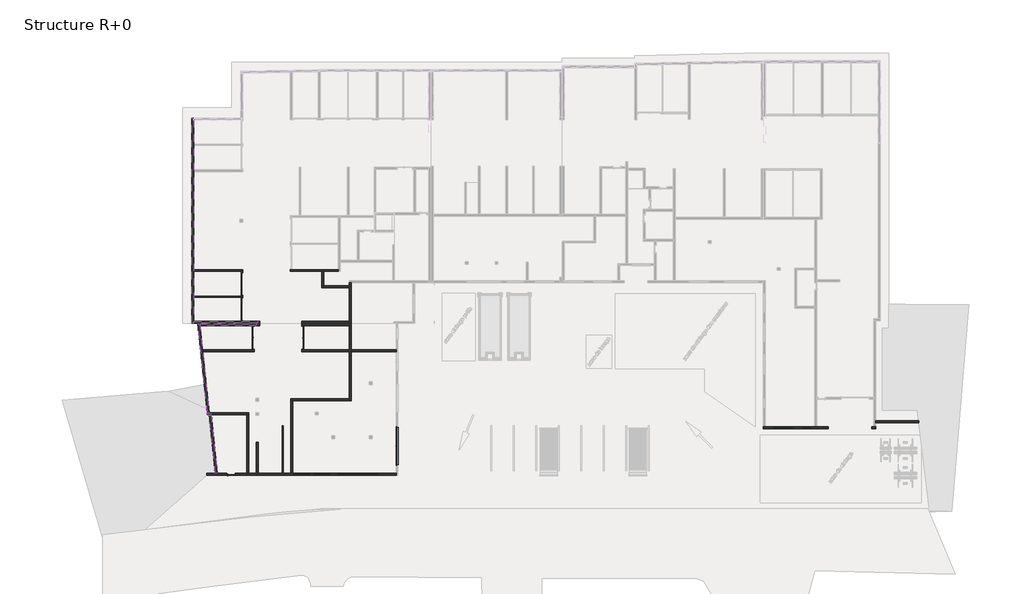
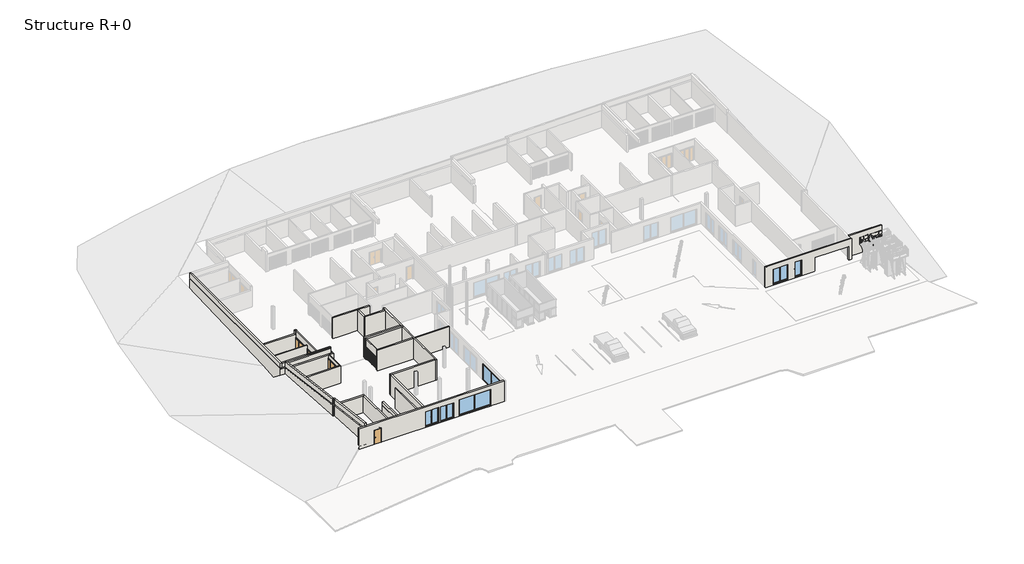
# One storey, part 1 of 8: 34 walls, 6 windows, 5 doors.
"""IFC4 building model written with IfcOpenShell, lengths in millimetres."""

from ifc_helpers import new_model, si_unit, frame, origin, origin_with_axes, place, context, project, spatial, polyline, outline, extrude, faceted_brep, transform, mapped, element, save
from components import door_2_4m_x_2m_ca442cef, hb_simple_930_x_2040_mm_eef520c9, window_0_90m_x_2_25m_cf4a88c4, window_1_80m_x_2_25m_241c93e5, window_2m_x_2_25m_73eb5746, window_4_05m_x_2_35m_2_aa9c86cb, window_4_40m_x_2_35m_32ff79ff

model = new_model("IFC4")

# Units and contexts
model_context = context("Model", 3, world=origin())
ifc_project = project(units=[si_unit("LENGTHUNIT", "METRE", prefix="MILLI")], contexts=[model_context])

# Site, building, storey
site = spatial("IfcSite", under=ifc_project)
building = spatial("IfcBuilding", under=site)
storey = spatial("IfcBuildingStorey", under=building, Name="Structure R+0", Elevation=0.0)

# Doors
placement = place(None, origin())
door_2_4m_x_2m_shape = door_2_4m_x_2m_ca442cef(model_context)
element("IfcDoor", 1, ObjectType="Garage basculante : 2.4m x 2m", at=placement, inside=storey, context=model_context, shape_type="MappedRepresentation", body=[
    mapped(door_2_4m_x_2m_shape, transform((4050.4601588, 14310.0010954, 0.0), x_axis=(0.0, -1.0, 0.0), y_axis=(1.0, 0.0, 0.0), z_axis=(0.0, 0.0, 1.0))),
])
element("IfcDoor", 2, ObjectType="Garage basculante : 2.4m x 2m", at=placement, inside=storey, context=model_context, shape_type="MappedRepresentation", body=[
    mapped(door_2_4m_x_2m_shape, transform((4050.4601588, 11597.9170713, 0.0), x_axis=(0.0, -1.0, 0.0), y_axis=(1.0, 0.0, 0.0), z_axis=(0.0, 0.0, 1.0))),
])
element("IfcDoor", 3, ObjectType="Garage basculante : 2.4m x 2m", at=placement, inside=storey, context=model_context, shape_type="MappedRepresentation", body=[
    mapped(door_2_4m_x_2m_shape, transform((5252.8107901, 8563.0029899, 0.0), x_axis=(0.0, -1.0, 0.0), y_axis=(1.0, 0.0, 0.0), z_axis=(0.0, 0.0, 1.0))),
])
element("IfcDoor", 4, ObjectType="Garage basculante : 2.4m x 2m", at=placement, inside=storey, context=model_context, shape_type="MappedRepresentation", body=[
    mapped(door_2_4m_x_2m_shape, transform((9766.2156554, 8582.0080739, 0.0), x_axis=(0.0, 1.0, 0.0), y_axis=(-1.0, 0.0, 0.0), z_axis=(0.0, 0.0, 1.0))),
])
hb_simple_930_x_2040_mm_shape = hb_simple_930_x_2040_mm_eef520c9(model_context)
element("IfcDoor", 5, ObjectType="HB-Simple : 930 x 2040 mm", at=placement, inside=storey, context=model_context, shape_type="MappedRepresentation", body=[
    mapped(hb_simple_930_x_2040_mm_shape, transform((2482.6863548, -6005.1620119, 0.0), x_axis=(1.0, 0.0, 0.0), y_axis=(0.0, 1.0, 0.0), z_axis=(0.0, 0.0, 1.0))),
])

# Walls
element("IfcWall", 6, ObjectType="Voile BA 20 + etancheite 1 + 2 enduit", at=placement, inside=storey, context=model_context, shape_type="Brep", body=[
    faceted_brep([(174.1388085, 528.6115605, 2710.0), (-806.1527327, 9855.4625547, 2710.0), (-828.2246221, 10065.4625547, 2710.0), (-828.2246221, 10065.4625547, 3330.0), (-828.2246221, 10065.4625547, 3410.0), (174.1388085, 528.6115605, 3410.0), (-37.0179302, 528.6115605, 2710.0), (-37.0179302, 528.6115605, 3410.0), (-1039.3813608, 10065.4625547, 3410.0), (-1039.3813608, 10065.4625547, 2710.0)], [[[0, 1, 2, 3, 4, 5]], [[6, 7, 8, 9]], [[2, 1, 0, 6, 9]], [[5, 4, 8, 7]], [[0, 5, 7, 6]], [[4, 3, 2, 9, 8]]]),
])
element("IfcWall", 7, ObjectType="Voile BA 20 + etancheite 1 + 2 enduit", at=placement, inside=storey, context=model_context, shape_type="Brep", body=[
    faceted_brep([(-14.9460408, 318.6115605, 2710.0), (164.2799074, 318.6115605, 2710.0), (375.4398241, 318.6115605, 2710.0), (375.4398241, 318.6115605, 3410.0), (164.2799074, 318.6115605, 3410.0), (-14.9460408, 318.6115605, 3410.0), (-37.0179302, 528.6115605, 2710.0), (-37.0179302, 528.6115605, 3410.0), (174.1388085, 528.6115605, 3410.0), (353.337552, 528.6115605, 3410.0), (353.337552, 528.6115605, 2710.0), (174.1388085, 528.6115605, 2710.0)], [[[0, 1, 2, 3, 4, 5]], [[6, 7, 8, 9, 10, 11]], [[2, 1, 0, 6, 11, 10]], [[5, 4, 3, 9, 8, 7]], [[0, 5, 7, 6]], [[3, 2, 10, 9]]]),
])
element("IfcWall", 8, ObjectType="Voile BA 20 + etancheite 1 + 2 enduit", at=placement, inside=storey, context=model_context, shape_type="Brep", body=[
    faceted_brep([(-1473.0020232, 10125.465256, 2710.0), (-1473.0020232, 10335.465256, 2710.0), (-1473.0020232, 31818.092309, 2710.0), (-1473.0020232, 32028.092309, 2710.0), (-1473.0020232, 32028.092309, 3410.0), (-1473.0020232, 31818.092309, 3410.0), (-1473.0020232, 10125.465256, 3410.0), (-1473.0020232, 10125.465256, 3330.0), (-1683.0020232, 10125.465256, 2710.0), (-1683.0020232, 10125.465256, 3410.0), (-1683.0020232, 32028.092309, 3410.0), (-1683.0020232, 32028.092309, 2710.0)], [[[0, 1, 2, 3, 4, 5, 6, 7]], [[8, 9, 10, 11]], [[3, 2, 1, 0, 8, 11]], [[6, 5, 4, 10, 9]], [[4, 3, 11, 10]], [[0, 7, 6, 9, 8]]]),
])
element("IfcWall", 9, ObjectType="Voile BA 20 + etancheite 1 + 0 enduit", at=placement, inside=storey, context=model_context, shape_type="Brep", body=[
    faceted_brep([(-806.1527327, 9855.4625547, 2710.0), (5184.2512184, 9855.4625547, 2710.0), (5184.2512184, 9855.4625547, 2720.0), (5184.2512184, 9855.4625547, 3030.0), (5184.2512184, 9855.4625547, 3320.0), (5184.2512184, 9855.4625547, 3330.0), (-806.1527327, 9855.4625547, 3330.0), (-828.2246221, 10065.4625547, 2710.0), (-828.2246221, 10065.4625547, 3330.0), (5184.2512184, 10065.4625547, 3330.0), (5184.2512184, 10065.4625547, 2710.0)], [[[0, 1, 2, 3, 4, 5, 6]], [[7, 8, 9, 10]], [[1, 0, 7, 10]], [[6, 5, 9, 8]], [[5, 4, 3, 2, 1, 10, 9]], [[0, 6, 8, 7]]]),
])
element("IfcWall", 10, ObjectType="Voile BA 20 + etancheite 1 + 0 enduit", at=placement, inside=storey, context=model_context, shape_type="Brep", body=[
    faceted_brep([(5329.893812, 10335.465256, 2710.0), (-1473.0020232, 10335.465256, 2710.0), (-1473.0020232, 10335.465256, 3330.0), (5329.893812, 10335.465256, 3330.0), (5329.893812, 10335.465256, 3320.0), (5329.893812, 10335.465256, 2720.0), (5329.893812, 10125.465256, 2710.0), (5329.893812, 10125.465256, 3330.0), (-1473.0020232, 10125.465256, 3330.0), (-1473.0020232, 10125.465256, 2710.0)], [[[0, 1, 2, 3, 4, 5]], [[6, 7, 8, 9]], [[1, 0, 6, 9]], [[3, 2, 8, 7]], [[0, 5, 4, 3, 7, 6]], [[2, 1, 9, 8]]]),
])
element("IfcWall", 11, ObjectType="Voile BA 20 + etancheite 1 + 2 enduit", at=placement, inside=storey, context=model_context, shape_type="SweptSolid", body=[
    extrude(outline(polyline([(375.4398241, 318.6115605), (1030.4852393, -5905.1620119), (819.3253225, -5905.1620119), (164.2799074, 318.6115605), (375.4398241, 318.6115605)])), frame((0.0, 0.0, 2710.0), z_axis=(0.0, 0.0, 1.0), x_axis=(1.0, 0.0, 0.0)), (0.0, 0.0, 1.0), 700.0),
])
element("IfcWall", 12, ObjectType="Ext. Voile BA 20", at=placement, inside=storey, context=model_context, shape_type="Brep", body=[
    faceted_brep([(-84.079262, -5905.1620119, 0.0), (-84.079262, -5905.1620119, 3030.0), (5184.2512184, -5905.1620119, 3030.0), (5382.6096912, -5905.1620119, 3030.0), (7979.1229661, -5905.1620119, 3030.0), (8079.1229661, -5905.1620119, 3030.0), (8879.0548308, -5905.1620119, 3030.0), (9079.0548308, -5905.1620119, 3030.0), (20115.920738, -5905.1620119, 3030.0), (20115.920738, -5905.1620119, 0.0), (9079.0548308, -5905.1620119, 0.0), (8879.0548308, -5905.1620119, 0.0), (8079.1229661, -5905.1620119, 0.0), (7979.1229661, -5905.1620119, 0.0), (5382.6096912, -5905.1620119, 0.0), (5182.6096912, -5905.1620119, 0.0), (4382.6863548, -5905.1620119, 0.0), (4182.6863548, -5905.1620119, 0.0), (2929.6863548, -5905.1620119, 0.0), (2929.6863548, -5905.1620119, 2022.0), (2035.6863548, -5905.1620119, 2022.0), (2035.6863548, -5905.1620119, 0.0), (1020.3287499, -5905.1620119, 0.0), (819.227094, -5905.1620119, 0.0), (9109.0548308, -5905.1620119, 35.0), (11009.0548308, -5905.1620119, 35.0), (11009.0548308, -5905.1620119, 2335.0), (9109.0548308, -5905.1620119, 2335.0), (11209.0548308, -5905.1620119, 35.0), (13109.0548308, -5905.1620119, 35.0), (13109.0548308, -5905.1620119, 2335.0), (11209.0548308, -5905.1620119, 2335.0), (13809.0548308, -5905.1620119, 35.0), (18309.0548308, -5905.1620119, 35.0), (18309.0548308, -5905.1620119, 2435.0), (13809.0548308, -5905.1620119, 2435.0), (-84.079262, -6105.1620119, 3030.0), (-84.079262, -6105.1620119, 0.0), (2016.1863548, -6105.1620119, 0.0), (2016.1863548, -6105.1620119, 2041.5), (2949.1863548, -6105.1620119, 2041.5), (2949.1863548, -6105.1620119, 0.0), (20115.920738, -6105.1620119, 0.0), (20115.920738, -6105.1620119, 3030.0), (10959.0548308, -6105.1620119, 2285.0), (10959.0548308, -6105.1620119, 22.3874918), (9159.0548308, -6105.1620119, 22.3874918), (9159.0548308, -6105.1620119, 2285.0), (13059.0548308, -6105.1620119, 2285.0), (13059.0548308, -6105.1620119, 22.3874918), (11259.0548308, -6105.1620119, 22.3874918), (11259.0548308, -6105.1620119, 2285.0), (18259.0548308, -6105.1620119, 2385.0), (18259.0548308, -6105.1620119, 22.3874918), (13859.0548308, -6105.1620119, 22.3874918), (13859.0548308, -6105.1620119, 2385.0), (2035.6863548, -5925.1620119, 0.0), (1973.1863548, -5925.1620119, 0.0), (1987.1863548, -5939.1620119, 0.0), (1999.1863548, -5927.1620119, 0.0), (2016.1863548, -5927.1620119, 0.0), (2016.1863548, -5962.1620119, 0.0), (2034.1863548, -5962.1620119, 0.0), (2034.1863548, -6083.1620119, 0.0), (2016.1863548, -6083.1620119, 0.0), (2949.1863548, -6083.1620119, 0.0), (2931.1863548, -6083.1620119, 0.0), (2931.1863548, -5962.1620119, 0.0), (2949.1863548, -5962.1620119, 0.0), (2949.1863548, -5927.1620119, 0.0), (2966.1863548, -5927.1620119, 0.0), (2978.1863548, -5939.1620119, 0.0), (2992.1863548, -5925.1620119, 0.0), (2929.6863548, -5925.1620119, 0.0), (2035.6863548, -5925.1620119, 2022.0), (2929.6863548, -5925.1620119, 2022.0), (2978.1863548, -5939.1620119, 2070.5), (2992.1863548, -5925.1620119, 2084.5), (2966.1863548, -5927.1620119, 2058.5), (2949.1863548, -5927.1620119, 2041.5), (2016.1863548, -5927.1620119, 2041.5), (1999.1863548, -5927.1620119, 2058.5), (2949.1863548, -5962.1620119, 2041.5), (2931.1863548, -5962.1620119, 2023.5), (2034.1863548, -5962.1620119, 2023.5), (2016.1863548, -5962.1620119, 2041.5), (2931.1863548, -6083.1620119, 2023.5), (2949.1863548, -6083.1620119, 2041.5), (2016.1863548, -6083.1620119, 2041.5), (2034.1863548, -6083.1620119, 2023.5), (1973.1863548, -5925.1620119, 2084.5), (1987.1863548, -5939.1620119, 2070.5), (10959.0548308, -5985.1620119, 35.0), (10959.0548308, -6005.1620119, 2285.0), (10959.0548308, -6005.1620119, 35.0), (9159.0548308, -5985.1620119, 35.0), (9159.0548308, -6005.1620119, 35.0), (9159.0548308, -6005.1620119, 2285.0), (10969.0548308, -6005.1620119, 35.0), (10969.0548308, -5955.1620119, 35.0), (11009.0548308, -5955.1620119, 35.0), (9109.0548308, -5955.1620119, 35.0), (9149.0548308, -5955.1620119, 35.0), (9149.0548308, -6005.1620119, 35.0), (11009.0548308, -5955.1620119, 2335.0), (10969.0548308, -5955.1620119, 2295.0), (9149.0548308, -5955.1620119, 2295.0), (9109.0548308, -5955.1620119, 2335.0), (10969.0548308, -6005.1620119, 2295.0), (9149.0548308, -6005.1620119, 2295.0), (13059.0548308, -5985.1620119, 35.0), (13059.0548308, -6005.1620119, 2285.0), (13059.0548308, -6005.1620119, 35.0), (11259.0548308, -5985.1620119, 35.0), (11259.0548308, -6005.1620119, 35.0), (11259.0548308, -6005.1620119, 2285.0), (13069.0548308, -6005.1620119, 35.0), (13069.0548308, -5955.1620119, 35.0), (13109.0548308, -5955.1620119, 35.0), (11209.0548308, -5955.1620119, 35.0), (11249.0548308, -5955.1620119, 35.0), (11249.0548308, -6005.1620119, 35.0), (13109.0548308, -5955.1620119, 2335.0), (13069.0548308, -5955.1620119, 2295.0), (11249.0548308, -5955.1620119, 2295.0), (11209.0548308, -5955.1620119, 2335.0), (13069.0548308, -6005.1620119, 2295.0), (11249.0548308, -6005.1620119, 2295.0), (18259.0548308, -5985.1620119, 35.0), (18259.0548308, -6005.1620119, 2385.0), (18259.0548308, -6005.1620119, 35.0), (13859.0548308, -5985.1620119, 35.0), (13859.0548308, -6005.1620119, 35.0), (13859.0548308, -6005.1620119, 2385.0), (18269.0548308, -6005.1620119, 35.0), (18269.0548308, -5955.1620119, 35.0), (18309.0548308, -5955.1620119, 35.0), (13809.0548308, -5955.1620119, 35.0), (13849.0548308, -5955.1620119, 35.0), (13849.0548308, -6005.1620119, 35.0), (18309.0548308, -5955.1620119, 2435.0), (18269.0548308, -5955.1620119, 2395.0), (13849.0548308, -5955.1620119, 2395.0), (13809.0548308, -5955.1620119, 2435.0), (18269.0548308, -6005.1620119, 2395.0), (13849.0548308, -6005.1620119, 2395.0)], [[[0, 1, 2, 3, 4, 5, 6, 7, 8, 9, 10, 11, 12, 13, 14, 15, 16, 17, 18, 19, 20, 21, 22, 23], [24, 25, 26, 27], [28, 29, 30, 31], [32, 33, 34, 35]], [[36, 37, 38, 39, 40, 41, 42, 43], [44, 45, 46, 47], [48, 49, 50, 51], [52, 53, 54, 55]], [[37, 0, 23, 22, 21, 56, 57, 58, 59, 60, 61, 62, 63, 64, 38]], [[9, 42, 41, 65, 66, 67, 68, 69, 70, 71, 72, 73, 18, 17, 16, 15, 14, 13, 12, 11, 10]], [[1, 0, 37, 36]], [[8, 7, 6, 5, 4, 3, 2, 1, 36, 43]], [[9, 8, 43, 42]], [[74, 56, 21, 20]], [[75, 74, 20, 19]], [[73, 75, 19, 18]], [[71, 76, 77, 72]], [[76, 71, 70, 78]], [[78, 70, 69, 79, 80, 60, 59, 81]], [[79, 69, 68, 82]], [[82, 68, 67, 83, 84, 62, 61, 85]], [[83, 67, 66, 86]], [[86, 66, 65, 87, 88, 64, 63, 89]], [[87, 65, 41, 40]], [[56, 74, 75, 73, 72, 77, 90, 57]], [[77, 76, 91, 90]], [[76, 78, 81, 91]], [[80, 79, 82, 85]], [[84, 83, 86, 89]], [[88, 87, 40, 39]], [[57, 90, 91, 58]], [[81, 59, 58, 91]], [[60, 80, 85, 61]], [[62, 84, 89, 63]], [[64, 88, 39, 38]], [[92, 45, 44, 93, 94]], [[46, 95, 96, 97, 47]], [[92, 95, 46, 45]], [[44, 47, 97, 93]], [[95, 92, 94, 98, 99, 100, 25, 24, 101, 102, 103, 96]], [[25, 100, 104, 26]], [[100, 99, 105, 106, 102, 101, 107, 104]], [[99, 98, 108, 105]], [[98, 94, 93, 97, 96, 103, 109, 108]], [[26, 104, 107, 27]], [[106, 105, 108, 109]], [[107, 101, 24, 27]], [[102, 106, 109, 103]], [[110, 49, 48, 111, 112]], [[50, 113, 114, 115, 51]], [[110, 113, 50, 49]], [[48, 51, 115, 111]], [[113, 110, 112, 116, 117, 118, 29, 28, 119, 120, 121, 114]], [[29, 118, 122, 30]], [[118, 117, 123, 124, 120, 119, 125, 122]], [[117, 116, 126, 123]], [[116, 112, 111, 115, 114, 121, 127, 126]], [[30, 122, 125, 31]], [[124, 123, 126, 127]], [[125, 119, 28, 31]], [[120, 124, 127, 121]], [[128, 53, 52, 129, 130]], [[54, 131, 132, 133, 55]], [[128, 131, 54, 53]], [[52, 55, 133, 129]], [[131, 128, 130, 134, 135, 136, 33, 32, 137, 138, 139, 132]], [[33, 136, 140, 34]], [[136, 135, 141, 142, 138, 137, 143, 140]], [[135, 134, 144, 141]], [[134, 130, 129, 133, 132, 139, 145, 144]], [[34, 140, 143, 35]], [[142, 141, 144, 145]], [[143, 137, 32, 35]], [[138, 142, 145, 139]]]),
])
element("IfcWall", 13, ObjectType="Ext. Voile BA 20", at=placement, inside=storey, context=model_context, shape_type="SweptSolid", body=[
    extrude(outline(polyline([(363.8161837, 341.1378118), (1020.3287499, -5905.1620119), (819.227094, -5905.1620119), (162.7145278, 341.1378118), (363.8161837, 341.1378118)])), origin_with_axes(), (0.0, 0.0, 1.0), 2510.0),
])
element("IfcWall", 14, ObjectType="Ext. Voile BA 20", at=placement, inside=storey, context=model_context, shape_type="Brep", body=[
    faceted_brep([(162.7671637, 541.1378118, 0.0), (-523.2918803, 7068.5535934, 0.0), (-544.3127274, 7268.5535934, 0.0), (-817.2588578, 9865.4625547, 0.0), (-838.2797049, 10065.4625547, 0.0), (-838.2797049, 10065.4625547, 2510.0), (-817.2588578, 9865.4625547, 2510.0), (-544.3127274, 7268.5535934, 2510.0), (-523.2918803, 7068.5535934, 2510.0), (162.7671637, 541.1378118, 2510.0), (-38.3344923, 541.1378118, 0.0), (-38.3344923, 541.1378118, 2510.0), (-1039.3813608, 10065.4625547, 2510.0), (-1039.3813608, 10065.4625547, 0.0)], [[[0, 1, 2, 3, 4, 5, 6, 7, 8, 9]], [[10, 11, 12, 13]], [[0, 9, 11, 10]], [[5, 4, 13, 12]], [[4, 3, 2, 1, 0, 10, 13]], [[9, 8, 7, 6, 5, 12, 11]]]),
])
element("IfcWall", 15, ObjectType="Ext. Voile BA 20", at=placement, inside=storey, context=model_context, shape_type="Brep", body=[
    faceted_brep([(-1483.0020232, 10325.4652425, 0.0), (-1483.0020232, 12900.3689001, 0.0), (-1483.0020232, 13000.3689001, 0.0), (-1483.0020232, 15649.6332908, 0.0), (-1483.0020232, 15849.6332908, 0.0), (-1483.0020232, 26308.0923089, 0.0), (-1483.0020232, 26508.0923089, 0.0), (-1483.0020232, 29128.092309, 0.0), (-1483.0020232, 29228.092309, 0.0), (-1483.0020232, 31828.092309, 0.0), (-1483.0020232, 32028.092309, 0.0), (-1483.0020232, 32028.092309, 2510.0), (-1483.0020232, 31828.092309, 2510.0), (-1483.0020232, 29228.092309, 2510.0), (-1483.0020232, 29128.092309, 2510.0), (-1483.0020232, 26508.0923089, 2510.0), (-1483.0020232, 26308.0923089, 2510.0), (-1483.0020232, 15849.6332908, 2510.0), (-1483.0020232, 15649.6332908, 2510.0), (-1483.0020232, 13000.3689001, 2510.0), (-1483.0020232, 12900.3689001, 2510.0), (-1483.0020232, 10325.4652425, 2510.0), (-1683.0020232, 10325.4652425, 0.0), (-1683.0020232, 10325.4652425, 2510.0), (-1683.0020232, 32028.092309, 2510.0), (-1683.0020232, 32028.092309, 0.0)], [[[0, 1, 2, 3, 4, 5, 6, 7, 8, 9, 10, 11, 12, 13, 14, 15, 16, 17, 18, 19, 20, 21]], [[22, 23, 24, 25]], [[0, 21, 23, 22]], [[11, 10, 25, 24]], [[10, 9, 8, 7, 6, 5, 4, 3, 2, 1, 0, 22, 25]], [[21, 20, 19, 18, 17, 16, 15, 14, 13, 12, 11, 24, 23]]]),
])
element("IfcWall", 16, ObjectType="Ext. Voile BA 20", at=placement, inside=storey, context=model_context, shape_type="Brep", body=[
    faceted_brep([(15109.3203129, 14117.7151113, 0.0), (12409.3203129, 14117.7151113, 0.0), (12209.3203129, 14117.7151113, 0.0), (12209.3203129, 14117.7151113, 3030.0), (12409.3203129, 14117.7151113, 3030.0), (15109.3203129, 14117.7151113, 3030.0), (15109.3203129, 13917.7151113, 0.0), (15109.3203129, 13917.7151113, 3030.0), (12209.3203129, 13917.7151113, 3030.0), (12209.3203129, 13917.7151113, 0.0)], [[[0, 1, 2, 3, 4, 5]], [[6, 7, 8, 9]], [[2, 1, 0, 6, 9]], [[0, 5, 7, 6]], [[3, 2, 9, 8]], [[5, 4, 3, 8, 7]]]),
])
element("IfcWall", 17, ObjectType="Ext. Voile BA 20", at=placement, inside=storey, context=model_context, shape_type="SweptSolid", body=[
    extrude(outline(polyline([(12409.3203129, 15649.6332906), (12409.3203129, 14117.7151113), (12209.3203129, 14117.7151113), (12209.3203129, 15649.6332906), (12409.3203129, 15649.6332906)])), origin_with_axes(), (0.0, 0.0, 1.0), 3030.0),
])
element("IfcWall", 18, ObjectType="Ext. Voile BA 20", at=placement, inside=storey, context=model_context, shape_type="Brep", body=[
    faceted_brep([(13964.9548931, 15849.6332906, 0.0), (8901.4301413, 15849.6332906, 0.0), (8801.4301413, 15849.6332906, 0.0), (8801.4301413, 15849.6332906, 3030.0), (8901.4301413, 15849.6332906, 3030.0), (13964.9548931, 15849.6332906, 3030.0), (13964.9548931, 15649.6332906, 0.0), (13964.9548931, 15649.6332906, 3030.0), (12409.3203129, 15649.6332906, 3030.0), (12209.3203129, 15649.6332906, 3030.0), (8801.4301413, 15649.6332906, 3030.0), (8801.4301413, 15649.6332906, 0.0), (12209.3203129, 15649.6332906, 0.0), (12409.3203129, 15649.6332906, 0.0)], [[[0, 1, 2, 3, 4, 5]], [[6, 7, 8, 9, 10, 11, 12, 13]], [[2, 1, 0, 6, 13, 12, 11]], [[0, 5, 7, 6]], [[3, 2, 11, 10]], [[5, 4, 3, 10, 9, 8, 7]]]),
])
element("IfcWall", 19, ObjectType="Ext. Voile BA 20", at=placement, inside=storey, context=model_context, shape_type="Brep", body=[
    faceted_brep([(15109.3203129, 2054.6479064, 0.0), (8879.0548308, 2054.6479064, 0.0), (8879.0548308, 2054.6479064, 3030.0), (15109.3203129, 2054.6479064, 3030.0), (15109.3203129, 1854.6479064, 0.0), (15109.3203129, 1854.6479064, 3030.0), (9079.0548308, 1854.6479064, 3030.0), (8879.0548308, 1854.6479064, 3030.0), (8879.0548308, 1854.6479064, 0.0), (9079.0548308, 1854.6479064, 0.0)], [[[0, 1, 2, 3]], [[4, 5, 6, 7, 8, 9]], [[1, 0, 4, 9, 8]], [[0, 3, 5, 4]], [[2, 1, 8, 7]], [[3, 2, 7, 6, 5]]]),
])
element("IfcWall", 20, ObjectType="Ext. Voile BA 20", at=placement, inside=storey, context=model_context, shape_type="SweptSolid", body=[
    extrude(outline(polyline([(8879.0548308, -5905.1620119), (8879.0548308, 1854.6479064), (9079.0548308, 1854.6479064), (9079.0548308, -5905.1620119), (8879.0548308, -5905.1620119)])), origin_with_axes(), (0.0, 0.0, 1.0), 3030.0),
])
element("IfcWall", 21, ObjectType="Ext. Voile BA 20", at=placement, inside=storey, context=model_context, shape_type="SweptSolid", body=[
    extrude(outline(polyline([(0.0, 5382.6096912), (3030.0, 5382.6096912), (3030.0, 5184.2512184), (2510.0, 5184.2512184), (2510.0, 5182.6096912), (0.0, 5182.6096912), (0.0, 5382.6096912)])), frame((0.0, -5905.1620119, 0.0), z_axis=(0.0, 1.0, 0.0), x_axis=(0.0, 0.0, 1.0)), (0.0, 0.0, 1.0), 3319.5138564),
])
element("IfcWall", 22, ObjectType="Ext. Voile BA 20 + 2 enduit", at=placement, inside=storey, context=model_context, shape_type="Brep", body=[
    faceted_brep([(71327.0236897, -947.3118451, 0.0), (71127.0236897, -947.3118451, 0.0), (70909.617162, -947.3118451, 0.0), (70909.617162, -947.3118451, 2060.0), (66235.3680103, -947.3118451, 2060.0), (66235.3680103, -947.3118451, 0.0), (65012.3933514, -947.3118451, 0.0), (64812.3933514, -947.3118451, 0.0), (59542.9059955, -947.3118451, 0.0), (59342.9059955, -947.3118451, 0.0), (59342.9059955, -947.3118451, 3030.0), (59353.9486146, -947.3118451, 3030.0), (59542.9059955, -947.3118451, 3030.0), (64812.3933514, -947.3118451, 3030.0), (65012.3933514, -947.3118451, 3030.0), (71127.0236897, -947.3118451, 3030.0), (71317.0236897, -947.3118451, 3030.0), (71327.0236897, -947.3118451, 3030.0), (60406.1712689, -947.3118451, 70.0), (62506.1712689, -947.3118451, 70.0), (62506.1712689, -947.3118451, 2370.0), (60406.1712689, -947.3118451, 2370.0), (63424.5225082, -947.3118451, 70.0), (64424.5225082, -947.3118451, 70.0), (64424.5225082, -947.3118451, 2370.0), (63424.5225082, -947.3118451, 2370.0), (71327.0236897, -1147.3118451, 0.0), (71327.0236897, -1147.3118451, 3030.0), (71317.0236897, -1147.3118451, 3030.0), (59353.9486146, -1147.3118451, 3030.0), (59342.9059955, -1147.3118451, 3030.0), (59342.9059955, -1147.3118451, 0.0), (66235.3680103, -1147.3118451, 0.0), (66235.3680103, -1147.3118451, 2060.0), (70909.617162, -1147.3118451, 2060.0), (70909.617162, -1147.3118451, 0.0), (60456.1712689, -1147.3118451, 57.3874918), (60456.1712689, -1147.3118451, 2320.0), (62456.1712689, -1147.3118451, 2320.0), (62456.1712689, -1147.3118451, 57.3874918), (63474.5225082, -1147.3118451, 57.3874918), (63474.5225082, -1147.3118451, 2320.0), (64374.5225082, -1147.3118451, 2320.0), (64374.5225082, -1147.3118451, 57.3874918), (71327.0236897, -1137.3140034, 3030.0), (59342.9059955, -1137.3140034, 3030.0), (60456.1712689, -1027.3118451, 70.0), (60456.1712689, -1047.3118451, 70.0), (60456.1712689, -1047.3118451, 2320.0), (62456.1712689, -1047.3118451, 2320.0), (62456.1712689, -1047.3118451, 70.0), (62456.1712689, -1027.3118451, 70.0), (62466.1712689, -1047.3118451, 70.0), (62466.1712689, -997.3118451, 70.0), (62506.1712689, -997.3118451, 70.0), (60406.1712689, -997.3118451, 70.0), (60446.1712689, -997.3118451, 70.0), (60446.1712689, -1047.3118451, 70.0), (60406.1712689, -997.3118451, 2370.0), (62506.1712689, -997.3118451, 2370.0), (62466.1712689, -997.3118451, 2330.0), (60446.1712689, -997.3118451, 2330.0), (60446.1712689, -1047.3118451, 2330.0), (62466.1712689, -1047.3118451, 2330.0), (63474.5225082, -1027.3118451, 70.0), (63474.5225082, -1047.3118451, 70.0), (63474.5225082, -1047.3118451, 2320.0), (64374.5225082, -1047.3118451, 2320.0), (64374.5225082, -1047.3118451, 70.0), (64374.5225082, -1027.3118451, 70.0), (64384.5225082, -1047.3118451, 70.0), (64384.5225082, -997.3118451, 70.0), (64424.5225082, -997.3118451, 70.0), (63424.5225082, -997.3118451, 70.0), (63464.5225082, -997.3118451, 70.0), (63464.5225082, -1047.3118451, 70.0), (63424.5225082, -997.3118451, 2370.0), (64424.5225082, -997.3118451, 2370.0), (64384.5225082, -997.3118451, 2330.0), (63464.5225082, -997.3118451, 2330.0), (63464.5225082, -1047.3118451, 2330.0), (64384.5225082, -1047.3118451, 2330.0), (71317.0236897, -1137.3140034, 3030.0), (59353.9486146, -1137.3140034, 3030.0)], [[[0, 1, 2, 3, 4, 5, 6, 7, 8, 9, 10, 11, 12, 13, 14, 15, 16, 17], [18, 19, 20, 21], [22, 23, 24, 25]], [[26, 27, 28, 29, 30, 31, 32, 33, 34, 35], [36, 37, 38, 39], [40, 41, 42, 43]], [[0, 17, 44, 27, 26]], [[10, 9, 31, 30, 45]], [[9, 8, 7, 6, 5, 32, 31]], [[2, 1, 0, 26, 35]], [[3, 2, 35, 34]], [[4, 3, 34, 33]], [[5, 4, 33, 32]], [[46, 47, 48, 37, 36]], [[39, 38, 49, 50, 51]], [[46, 36, 39, 51]], [[37, 48, 49, 38]], [[51, 50, 52, 53, 54, 19, 18, 55, 56, 57, 47, 46]], [[18, 21, 58, 55]], [[55, 58, 59, 54, 53, 60, 61, 56]], [[56, 61, 62, 57]], [[57, 62, 63, 52, 50, 49, 48, 47]], [[21, 20, 59, 58]], [[60, 63, 62, 61]], [[59, 20, 19, 54]], [[53, 52, 63, 60]], [[64, 65, 66, 41, 40]], [[43, 42, 67, 68, 69]], [[64, 40, 43, 69]], [[41, 66, 67, 42]], [[69, 68, 70, 71, 72, 23, 22, 73, 74, 75, 65, 64]], [[22, 25, 76, 73]], [[73, 76, 77, 72, 71, 78, 79, 74]], [[74, 79, 80, 75]], [[75, 80, 81, 70, 68, 67, 66, 65]], [[25, 24, 77, 76]], [[78, 81, 80, 79]], [[77, 24, 23, 72]], [[71, 70, 81, 78]], [[17, 16, 82, 44]], [[82, 28, 27, 44]], [[11, 10, 45, 83]], [[29, 28, 82, 83]], [[45, 30, 29, 83]], [[16, 15, 14, 13, 12, 11, 83, 82]]]),
])
element("IfcWall", 23, ObjectType="Ext. Voile BA 20 + 2 enduit", at=placement, inside=storey, context=model_context, shape_type="SweptSolid", body=[
    extrude(outline(polyline([(75901.2824686, -508.991972), (71327.0236897, -508.991972), (71327.0236897, -308.991972), (75901.2824686, -308.991972), (75901.2824686, -508.991972)])), origin_with_axes(), (0.0, 0.0, 1.0), 3030.0),
])
element("IfcWall", 24, ObjectType="Int. Parpaing 100 mm", at=placement, inside=storey, context=model_context, shape_type="SweptSolid", body=[
    extrude(outline(polyline([(0.0, -1483.0020232), (0.0, 3656.907833), (2510.0, 3656.907833), (2510.0, 3536.9058449), (2510.0, -1483.0020232), (0.0, -1483.0020232)])), frame((0.0, 12900.3689001, 0.0), z_axis=(0.0, 1.0, 0.0), x_axis=(0.0, 0.0, 1.0)), (0.0, 0.0, 1.0), 100.0),
])
element("IfcWall", 25, ObjectType="Int. Parpaing 100 mm", at=placement, inside=storey, context=model_context, shape_type="Brep", body=[
    faceted_brep([(3656.907833, 10335.465256, 3000.0), (3656.907833, 15649.6332908, 3000.0), (3656.907833, 15649.6332908, 0.0), (3656.907833, 15540.0010954, 0.0), (3656.907833, 15540.0010954, 2015.0), (3656.907833, 13110.0010954, 2015.0), (3656.907833, 13110.0010954, 0.0), (3656.907833, 13000.3689001, 0.0), (3656.907833, 12900.3689001, 0.0), (3656.907833, 12827.9170713, 0.0), (3656.907833, 12827.9170713, 2015.0), (3656.907833, 10397.9170713, 2015.0), (3656.907833, 10397.9170713, 0.0), (3656.907833, 10325.4652425, 0.0), (3656.907833, 10325.4652425, 2710.0), (3656.907833, 10335.465256, 2710.0), (3756.907833, 15649.6332908, 3000.0), (3756.907833, 10335.465256, 3000.0), (3756.907833, 10335.465256, 2710.0), (3756.907833, 10325.4652425, 2710.0), (3756.907833, 10325.4652425, 0.0), (3756.907833, 10397.9170713, 0.0), (3756.907833, 10397.9170713, 2015.0), (3756.907833, 12827.9170713, 2015.0), (3756.907833, 12827.9170713, 0.0), (3756.907833, 13110.0010954, 0.0), (3756.907833, 13110.0010954, 2015.0), (3756.907833, 15540.0010954, 2015.0), (3756.907833, 15540.0010954, 0.0), (3756.907833, 15649.6332908, 0.0)], [[[0, 1, 2, 3, 4, 5, 6, 7, 8, 9, 10, 11, 12, 13, 14, 15]], [[16, 17, 18, 19, 20, 21, 22, 23, 24, 25, 26, 27, 28, 29]], [[2, 29, 28, 3]], [[20, 13, 12, 21]], [[6, 25, 24, 9, 8, 7]], [[1, 0, 17, 16]], [[2, 1, 16, 29]], [[26, 5, 4, 27]], [[27, 4, 3, 28]], [[5, 26, 25, 6]], [[22, 11, 10, 23]], [[23, 10, 9, 24]], [[11, 22, 21, 12]], [[15, 14, 19, 18]], [[13, 20, 19, 14]], [[17, 0, 15, 18]]]),
])
element("IfcWall", 26, ObjectType="Int. Parpaing 100 mm", at=placement, inside=storey, context=model_context, shape_type="SweptSolid", body=[
    extrude(outline(polyline([(7268.5535934, 0.0), (7268.5535934, 2510.0), (9865.4625547, 2510.0), (9865.4625547, 0.0), (9793.0029899, 0.0), (9793.0029899, 2015.0), (7363.0029899, 2015.0), (7363.0029899, 0.0), (7268.5535934, 0.0)])), frame((4859.2584643, 0.0, 0.0), z_axis=(1.0, 0.0, 0.0), x_axis=(0.0, 1.0, 0.0)), (0.0, 0.0, 1.0), 100.0),
])
element("IfcWall", 27, ObjectType="Int. Parpaing 100 mm", at=placement, inside=storey, context=model_context, shape_type="SweptSolid", body=[
    extrude(outline(polyline([(7268.553593, 3030.0), (9865.4625548, 3030.0), (9865.4625548, 0.0), (9782.0080739, 0.0), (9782.0080739, 2015.0), (7352.0080739, 2015.0), (7352.0080739, 0.0), (7268.553593, 0.0), (7268.553593, 3030.0)])), frame((10059.7679812, 0.0, 0.0), z_axis=(1.0, 0.0, 0.0), x_axis=(0.0, 1.0, 0.0)), (0.0, 0.0, 1.0), 100.0),
])
element("IfcWall", 28, ObjectType="Int. Parpaing 100 mm", at=placement, inside=storey, context=model_context, shape_type="SweptSolid", body=[
    extrude(outline(polyline([(7979.1229661, -5905.1620119), (7979.1229661, -824.0586501), (8079.1229661, -824.0586501), (8079.1229661, -5905.1620119), (7979.1229661, -5905.1620119)])), origin_with_axes(), (0.0, 0.0, 1.0), 3030.0),
])
element("IfcWall", 29, ObjectType="Voile BA 20", at=placement, inside=storey, context=model_context, shape_type="Brep", body=[
    faceted_brep([(4382.6863548, 541.1378118, 0.0), (162.7671637, 541.1378118, 0.0), (-38.3344923, 541.1378118, 0.0), (-38.3344923, 541.1378118, 2510.0), (162.7671637, 541.1378118, 2510.0), (4382.6863548, 541.1378118, 2510.0), (4382.6863548, 341.1378118, 0.0), (4382.6863548, 341.1378118, 2510.0), (4182.6863548, 341.1378118, 2510.0), (363.8161837, 341.1378118, 2510.0), (162.7145278, 341.1378118, 2510.0), (-17.3136452, 341.1378118, 2510.0), (-17.3136452, 341.1378118, 0.0), (162.7145278, 341.1378118, 0.0), (363.8161837, 341.1378118, 0.0), (4182.6863548, 341.1378118, 0.0)], [[[0, 1, 2, 3, 4, 5]], [[6, 7, 8, 9, 10, 11, 12, 13, 14, 15]], [[3, 2, 12, 11]], [[0, 5, 7, 6]], [[2, 1, 0, 6, 15, 14, 13, 12]], [[5, 4, 3, 11, 10, 9, 8, 7]]]),
])
element("IfcWall", 30, ObjectType="Voile BA 20", at=placement, inside=storey, context=model_context, shape_type="Brep", body=[
    faceted_brep([(-817.2588578, 9865.4625547, 0.0), (4859.2584643, 9865.4625547, 0.0), (4959.2584643, 9865.4625547, 0.0), (5558.3074148, 9865.4625547, 0.0), (5558.3074148, 9865.4625547, 2510.0), (4959.2584643, 9865.4625547, 2510.0), (4859.2584643, 9865.4625547, 2510.0), (-817.2588578, 9865.4625547, 2510.0), (-838.2797049, 10065.4625547, 0.0), (-838.2797049, 10065.4625547, 2510.0), (5558.3074148, 10065.4625547, 2510.0), (5558.3074148, 10065.4625547, 0.0)], [[[0, 1, 2, 3, 4, 5, 6, 7]], [[8, 9, 10, 11]], [[0, 7, 9, 8]], [[3, 2, 1, 0, 8, 11]], [[4, 3, 11, 10]], [[7, 6, 5, 4, 10, 9]]]),
])
element("IfcWall", 31, ObjectType="Voile BA 20", at=placement, inside=storey, context=model_context, shape_type="Brep", body=[
    faceted_brep([(5558.3074148, 10325.4652425, 0.0), (3756.907833, 10325.4652425, 0.0), (3656.907833, 10325.4652425, 0.0), (-1483.0020232, 10325.4652425, 0.0), (-1683.0020232, 10325.4652425, 0.0), (-1683.0020232, 10325.4652425, 2510.0), (-1483.0020232, 10325.4652425, 2510.0), (5558.3074148, 10325.4652425, 2510.0), (5558.3074148, 10125.4652425, 0.0), (5558.3074148, 10125.4652425, 2510.0), (-1683.0020232, 10125.4652425, 2510.0), (-1683.0020232, 10125.4652425, 0.0)], [[[0, 1, 2, 3, 4, 5, 6, 7]], [[8, 9, 10, 11]], [[5, 4, 11, 10]], [[4, 3, 2, 1, 0, 8, 11]], [[7, 6, 5, 10, 9]], [[0, 7, 9, 8]]]),
])
element("IfcWall", 32, ObjectType="Voile BA 20", at=placement, inside=storey, context=model_context, shape_type="Brep", body=[
    faceted_brep([(15109.3203129, 14457.8960617, 0.0), (15109.3203129, 14117.7151113, 0.0), (15109.3203129, 13917.7151113, 0.0), (15109.3203129, 10325.4117008, 0.0), (15109.3203129, 10125.4117008, 0.0), (15109.3203129, 10125.4117008, 3030.0), (15109.3203129, 10325.4117008, 3030.0), (15109.3203129, 13917.7151113, 3030.0), (15109.3203129, 14117.7151113, 3030.0), (15109.3203129, 14457.8960617, 3030.0), (15309.3203129, 14457.8960617, 0.0), (15309.3203129, 14457.8960617, 3030.0), (15309.3203129, 10125.4117008, 3030.0), (15309.3203129, 10125.4117008, 0.0)], [[[0, 1, 2, 3, 4, 5, 6, 7, 8, 9]], [[10, 11, 12, 13]], [[4, 3, 2, 1, 0, 10, 13]], [[0, 9, 11, 10]], [[5, 4, 13, 12]], [[9, 8, 7, 6, 5, 12, 11]]]),
])
element("IfcWall", 33, ObjectType="Voile BA 20", at=placement, inside=storey, context=model_context, shape_type="SweptSolid", body=[
    extrude(outline(polyline([(10059.7679783, 10325.4117008), (15109.3203129, 10325.4117008), (15109.3203129, 10125.4117008), (10059.7679783, 10125.4117008), (10059.7679783, 10325.4117008)])), origin_with_axes(), (0.0, 0.0, 1.0), 3030.0),
])
element("IfcWall", 34, ObjectType="Voile BA 20", at=placement, inside=storey, context=model_context, shape_type="Brep", body=[
    faceted_brep([(10059.7679812, 9865.4625548, 0.0), (10159.7679812, 9865.4625548, 0.0), (15109.3203129, 9865.4625548, 0.0), (15309.3203129, 9865.4625548, 0.0), (15309.3203129, 9865.4625548, 3030.0), (15109.3203129, 9865.4625548, 3030.0), (10159.7679812, 9865.4625548, 3030.0), (10059.7679812, 9865.4625548, 3030.0), (10059.7679812, 10065.4625548, 0.0), (10059.7679812, 10065.4625548, 3030.0), (15309.3203129, 10065.4625548, 3030.0), (15309.3203129, 10065.4625548, 0.0)], [[[0, 1, 2, 3, 4, 5, 6, 7]], [[8, 9, 10, 11]], [[3, 2, 1, 0, 8, 11]], [[4, 3, 11, 10]], [[0, 7, 9, 8]], [[7, 6, 5, 4, 10, 9]]]),
])
element("IfcWall", 35, ObjectType="Voile BA 20", at=placement, inside=storey, context=model_context, shape_type="Brep", body=[
    faceted_brep([(15109.3203129, 9865.4625548, 0.0), (15109.3203129, 7268.553593, 0.0), (15109.3203129, 7068.553593, 0.0), (15109.3203129, 2054.6479064, 0.0), (15109.3203129, 1854.6479064, 0.0), (15109.3203129, 1854.6479064, 3030.0), (15109.3203129, 2054.6479064, 3030.0), (15109.3203129, 7068.553593, 3030.0), (15109.3203129, 7268.553593, 3030.0), (15109.3203129, 9865.4625548, 3030.0), (15309.3203129, 9865.4625548, 0.0), (15309.3203129, 9865.4625548, 3030.0), (15309.3203129, 7268.553593, 3030.0), (15309.3203129, 7068.553593, 3030.0), (15309.3203129, 1854.6479064, 3030.0), (15309.3203129, 1854.6479064, 0.0), (15309.3203129, 7068.553593, 0.0), (15309.3203129, 7268.553593, 0.0)], [[[0, 1, 2, 3, 4, 5, 6, 7, 8, 9]], [[10, 11, 12, 13, 14, 15, 16, 17]], [[4, 3, 2, 1, 0, 10, 17, 16, 15]], [[0, 9, 11, 10]], [[5, 4, 15, 14]], [[9, 8, 7, 6, 5, 14, 13, 12, 11]]]),
])
element("IfcWall", 36, ObjectType="Voile BA 20", at=placement, inside=storey, context=model_context, shape_type="SweptSolid", body=[
    extrude(outline(polyline([(4382.6863548, 341.1378118), (4382.6863548, -5905.1620119), (4182.6863548, -5905.1620119), (4182.6863548, 341.1378118), (4382.6863548, 341.1378118)])), origin_with_axes(), (0.0, 0.0, 1.0), 2510.0),
])
element("IfcWall", 37, ObjectType="Voile BA 20", at=placement, inside=storey, context=model_context, shape_type="Brep", body=[
    faceted_brep([(20115.920738, 7268.553593, 3030.0), (20115.920738, 7268.553593, 0.0), (15309.3203129, 7268.553593, 0.0), (15309.3203129, 7268.553593, 3030.0), (20115.920738, 7068.553593, 0.0), (20115.920738, 7068.553593, 3030.0), (15309.3203129, 7068.553593, 3030.0), (15309.3203129, 7068.553593, 0.0)], [[[0, 1, 2, 3]], [[4, 5, 6, 7]], [[1, 4, 7, 2]], [[1, 0, 5, 4]], [[3, 2, 7, 6]], [[5, 0, 3, 6]]]),
    faceted_brep([(10059.7679812, 7268.553593, 0.0), (10059.7679812, 7268.553593, 3030.0), (10159.7679812, 7268.553593, 3030.0), (15109.3203129, 7268.553593, 3030.0), (15109.3203129, 7268.553593, 0.0), (10159.7679812, 7268.553593, 0.0), (10059.7679812, 7068.553593, 3030.0), (10059.7679812, 7068.553593, 0.0), (15109.3203129, 7068.553593, 0.0), (15109.3203129, 7068.553593, 3030.0)], [[[0, 1, 2, 3, 4, 5]], [[6, 7, 8, 9]], [[7, 0, 5, 4, 8]], [[4, 3, 9, 8]], [[1, 0, 7, 6]], [[1, 6, 9, 3, 2]]]),
])
element("IfcWall", 38, ObjectType="Voile BA 20", at=placement, inside=storey, context=model_context, shape_type="Brep", body=[
    faceted_brep([(4959.2584643, 7268.5535934, 0.0), (4859.2584643, 7268.5535934, 0.0), (-544.3127274, 7268.5535934, 0.0), (-544.3127274, 7268.5535934, 2510.0), (4859.2584643, 7268.5535934, 2510.0), (4959.2584643, 7268.5535934, 2510.0), (4959.2584643, 7068.5535934, 0.0), (4959.2584643, 7068.5535934, 2510.0), (-523.2918803, 7068.5535934, 2510.0), (-523.2918803, 7068.5535934, 0.0)], [[[0, 1, 2, 3, 4, 5]], [[6, 7, 8, 9]], [[2, 1, 0, 6, 9]], [[0, 5, 7, 6]], [[5, 4, 3, 8, 7]], [[3, 2, 9, 8]]]),
])
element("IfcWall", 39, ObjectType="Voile BA 20", at=placement, inside=storey, context=model_context, shape_type="Brep", body=[
    faceted_brep([(3756.907833, 15849.6332908, 0.0), (-1483.0020232, 15849.6332908, 0.0), (-1483.0020232, 15849.6332908, 2510.0), (3536.9058449, 15849.6332908, 2510.0), (3536.9058449, 15849.6332908, 3030.0), (3555.2220688, 15849.6332908, 3030.0), (3756.907833, 15849.6332908, 3030.0), (3756.907833, 15649.6332908, 0.0), (3756.907833, 15649.6332908, 3000.0), (3756.907833, 15649.6332908, 3030.0), (3555.2220688, 15649.6332908, 3030.0), (3536.9058449, 15649.6332908, 3030.0), (3536.9058449, 15649.6332908, 2510.0), (-1483.0020232, 15649.6332908, 2510.0), (-1483.0020232, 15649.6332908, 0.0), (3656.907833, 15649.6332908, 0.0)], [[[0, 1, 2, 3, 4, 5, 6]], [[7, 8, 9, 10, 11, 12, 13, 14, 15]], [[1, 0, 7, 15, 14]], [[0, 6, 9, 8, 7]], [[6, 5, 10, 9]], [[5, 4, 11, 10]], [[11, 4, 3, 12]], [[3, 2, 13, 12]], [[2, 1, 14, 13]]]),
])

# Windows
window_0_90m_x_2_25m_shape = window_0_90m_x_2_25m_cf4a88c4(model_context)
element("IfcWindow", 40, ObjectType="PF 1 Vantail - Droite : 0.90m x 2.25m", at=placement, inside=storey, context=model_context, shape_type="MappedRepresentation", body=[
    mapped(window_0_90m_x_2_25m_shape, transform((63924.5225082, -1047.3118451, 35.0), x_axis=(1.0, 0.0, 0.0), y_axis=(0.0, 1.0, 0.0), z_axis=(0.0, 0.0, 1.0))),
])
window_1_80m_x_2_25m_shape = window_1_80m_x_2_25m_241c93e5(model_context)
element("IfcWindow", 41, ObjectType="PF 2 Vantaux - Droits : 1.80m x 2.25m", at=placement, inside=storey, context=model_context, shape_type="MappedRepresentation", body=[
    mapped(window_1_80m_x_2_25m_shape, transform((10059.0548308, -6005.1620119, 0.0), x_axis=(-1.0, 0.0, 0.0), y_axis=(0.0, -1.0, 0.0), z_axis=(0.0, 0.0, 1.0))),
])
element("IfcWindow", 42, ObjectType="PF 2 Vantaux - Droits : 1.80m x 2.25m", at=placement, inside=storey, context=model_context, shape_type="MappedRepresentation", body=[
    mapped(window_1_80m_x_2_25m_shape, transform((12159.0548308, -6005.1620119, 0.0), x_axis=(-1.0, 0.0, 0.0), y_axis=(0.0, -1.0, 0.0), z_axis=(0.0, 0.0, 1.0))),
])
window_2m_x_2_25m_shape = window_2m_x_2_25m_73eb5746(model_context)
element("IfcWindow", 43, ObjectType="PF 2 Vantaux - Droits : 2m x 2.25m", at=placement, inside=storey, context=model_context, shape_type="MappedRepresentation", body=[
    mapped(window_2m_x_2_25m_shape, transform((61456.1712689, -1047.3118451, 35.0), x_axis=(1.0, 0.0, 0.0), y_axis=(0.0, 1.0, 0.0), z_axis=(0.0, 0.0, 1.0))),
])
window_4_05m_x_2_35m_2_shape = window_4_05m_x_2_35m_2_aa9c86cb(model_context)
element("IfcWindow", 44, ObjectType="PF 2 Vantaux - Droits : 4.05m x 2.35m 2", at=placement, inside=storey, context=model_context, shape_type="MappedRepresentation", body=[
    mapped(window_4_05m_x_2_35m_2_shape, transform((20215.920738, -2985.6481556, 0.0), x_axis=(0.0, -1.0, 0.0), y_axis=(1.0, 0.0, 0.0), z_axis=(0.0, 0.0, 1.0))),
])
window_4_40m_x_2_35m_shape = window_4_40m_x_2_35m_32ff79ff(model_context)
element("IfcWindow", 45, ObjectType="PF 2 Vantaux - Droits : 4.40m x 2.35m", at=placement, inside=storey, context=model_context, shape_type="MappedRepresentation", body=[
    mapped(window_4_40m_x_2_35m_shape, transform((16059.0548308, -6005.1620119, 0.0), x_axis=(-1.0, 0.0, 0.0), y_axis=(0.0, -1.0, 0.0), z_axis=(0.0, 0.0, 1.0))),
])

save(model, "model.ifc")
